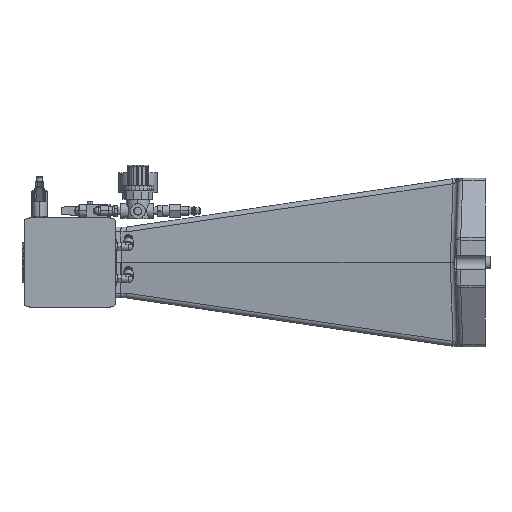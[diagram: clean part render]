
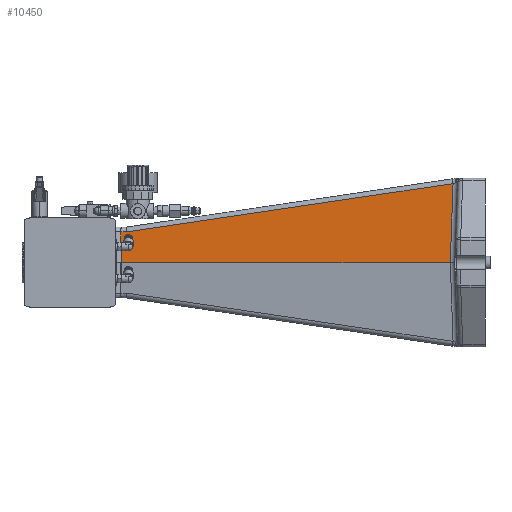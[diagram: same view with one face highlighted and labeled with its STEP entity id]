
A CAD part, left-side view. The second image highlights one B-rep face of the part: STEP entity #10450.
In plain terms, the highlighted planar face has unit normal (-0.994, 0.103, 0.035).
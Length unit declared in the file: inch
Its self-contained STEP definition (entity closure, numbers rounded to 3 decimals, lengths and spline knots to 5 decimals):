
#105 = EDGE_CURVE ( 'Defeatured_0_207+Defeatured_0_264+Defeatured_0_208+Defeatured_0_266', #21818, #20941, #982, .T. ) ;
#982 = LINE ( 'NONE', #44063, #43798 ) ;
#3140 = CARTESIAN_POINT ( 'NONE',  ( -7.18548, 0.14554, 0. ) ) ;
#5997 = EDGE_LOOP ( 'NONE', ( #14052, #15254, #33352, #24243, #24822 ) ) ;
#6724 = FACE_OUTER_BOUND ( 'NONE', #5997, .T. ) ;
#7670 = DIRECTION ( 'NONE',  ( 0.031, -0.035, 0.999 ) ) ;
#9864 = DIRECTION ( 'NONE',  ( -0.994, 0.103, 0.035 ) ) ;
#9901 = CARTESIAN_POINT ( 'NONE',  ( -7.13308, 0.14009, 1.50872 ) ) ;
#10450 = ADVANCED_FACE ( 'Defeatured_0_207', ( #6724 ), #21302, .T. ) ;
#10775 = AXIS2_PLACEMENT_3D ( 'NONE', #3140, #9864, #35871 ) ;
#11909 = VECTOR ( 'NONE', #37012, 39.37008 ) ;
#12431 = LINE ( 'NONE', #22907, #11909 ) ;
#12798 = VERTEX_POINT ( 'NONE', #17129 ) ;
#13175 = EDGE_CURVE ( 'Defeatured_0_207+Defeatured_0_268+Defeatured_0_266+Defeatured_0_272', #22841, #45105, #41946, .T. ) ;
#13363 = EDGE_CURVE ( 'Defeatured_0_207+Defeatured_0_266+Defeatured_0_264+Defeatured_0_268', #20941, #22841, #37314, .T. ) ;
#14052 = ORIENTED_EDGE ( 'NONE', *, *, #13175, .T. ) ;
#15254 = ORIENTED_EDGE ( 'NONE', *, *, #17404, .T. ) ;
#16066 = CARTESIAN_POINT ( 'NONE',  ( -5.26423, 18.10691, 1.50872 ) ) ;
#16534 = CARTESIAN_POINT ( 'NONE',  ( -5.23383, 18.3991, 1.50872 ) ) ;
#17129 = CARTESIAN_POINT ( 'NONE',  ( -5.28981, 18.37023, 0. ) ) ;
#17404 = EDGE_CURVE ( 'Defeatured_0_207+Defeatured_0_272+Defeatured_0_268+Defeatured_0_208', #45105, #12798, #12431, .T. ) ;
#18528 = VECTOR ( 'NONE', #37848, 39.37008 ) ;
#18903 = CARTESIAN_POINT ( 'NONE',  ( -7.18548, 0.14554, 0. ) ) ;
#19463 = EDGE_CURVE ( 'Defeatured_0_208+Defeatured_0_207+Defeatured_0_265+Defeatured_0_275', #21818, #12798, #33231, .T. ) ;
#20941 = VERTEX_POINT ( 'NONE', #33360 ) ;
#21302 = PLANE ( 'NONE',  #10775 ) ;
#21818 = VERTEX_POINT ( 'NONE', #23004 ) ;
#22841 = VERTEX_POINT ( 'NONE', #16066 ) ;
#22907 = CARTESIAN_POINT ( 'NONE',  ( -5.28967, 18.37031, 0.00374 ) ) ;
#23004 = CARTESIAN_POINT ( 'NONE',  ( -6.9776, 2.14408, 0. ) ) ;
#24243 = ORIENTED_EDGE ( 'NONE', *, *, #105, .T. ) ;
#24822 = ORIENTED_EDGE ( 'NONE', *, *, #13363, .T. ) ;
#25631 = CARTESIAN_POINT ( 'NONE',  ( -6.98137, 0.72993, 4.0822 ) ) ;
#25840 = DIRECTION ( 'NONE',  ( 0.103, 0.995, 0. ) ) ;
#29235 = VECTOR ( 'NONE', #33512, 39.37008 ) ;
#33231 = LINE ( 'NONE', #18903, #34994 ) ;
#33352 = ORIENTED_EDGE ( 'NONE', *, *, #19463, .F. ) ;
#33360 = CARTESIAN_POINT ( 'NONE',  ( -6.85507, 2.00813, 3.8929 ) ) ;
#33512 = DIRECTION ( 'NONE',  ( 0.097, 0.985, -0.146 ) ) ;
#34994 = VECTOR ( 'NONE', #25840, 39.37008 ) ;
#35871 = DIRECTION ( 'NONE',  ( -0.103, -0.995, 0. ) ) ;
#37012 = DIRECTION ( 'NONE',  ( -0.037, -0.019, -0.999 ) ) ;
#37314 = LINE ( 'NONE', #25631, #29235 ) ;
#37848 = DIRECTION ( 'NONE',  ( 0.103, 0.995, 0. ) ) ;
#41946 = LINE ( 'NONE', #9901, #18528 ) ;
#43798 = VECTOR ( 'NONE', #7670, 39.37008 ) ;
#44063 = CARTESIAN_POINT ( 'NONE',  ( -6.84619, 1.99829, 4.17474 ) ) ;
#45105 = VERTEX_POINT ( 'NONE', #16534 ) ;
